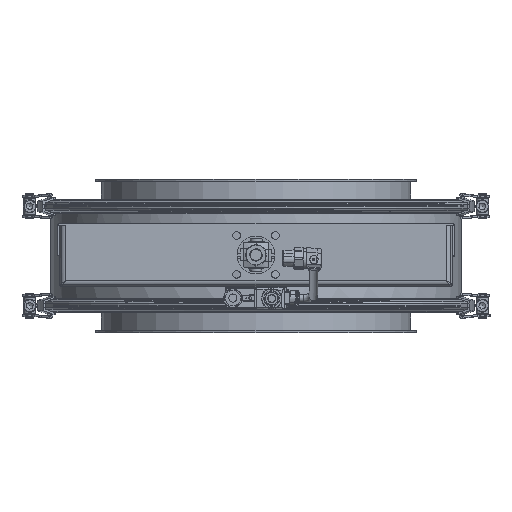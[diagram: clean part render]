
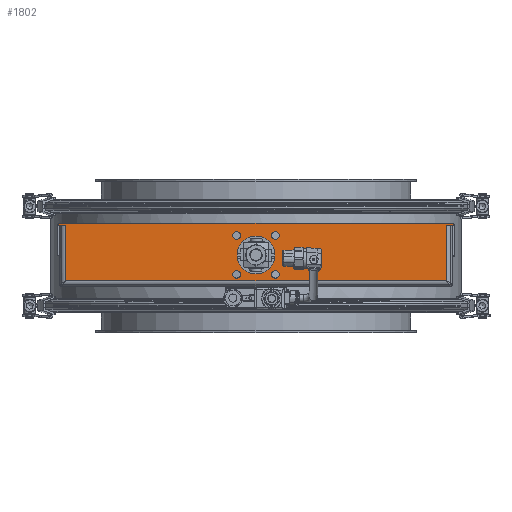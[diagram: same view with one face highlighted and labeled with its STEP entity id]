
A CAD part, left-side view. The second image highlights one B-rep face of the part: STEP entity #1802.
In plain terms, the highlighted planar face has unit normal (-1, 0, 0).
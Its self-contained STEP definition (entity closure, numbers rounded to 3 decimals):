
#859=CARTESIAN_POINT('',(-710.473,-186.,-24.));
#860=VERTEX_POINT('',#859);
#900=CARTESIAN_POINT('',(-710.473,-186.,30.));
#901=VERTEX_POINT('',#900);
#909=CARTESIAN_POINT('',(-710.473,-186.,30.));
#910=DIRECTION('',(0.0,0.0,-1.0));
#911=VECTOR('',#910,54.0);
#912=LINE('',#909,#911);
#913=EDGE_CURVE('',#901,#860,#912,.T.);
#965=CARTESIAN_POINT('',(-710.473,186.,-24.));
#966=VERTEX_POINT('',#965);
#990=CARTESIAN_POINT('',(-710.473,-186.0,-24.));
#991=DIRECTION('',(0.0,1.0,0.0));
#992=VECTOR('',#991,372.);
#993=LINE('',#990,#992);
#994=EDGE_CURVE('',#860,#966,#993,.T.);
#1012=CARTESIAN_POINT('',(-710.473,186.,30.));
#1013=VERTEX_POINT('',#1012);
#1014=CARTESIAN_POINT('',(-710.473,186.,-24.0));
#1015=DIRECTION('',(0.0,0.0,1.0));
#1016=VECTOR('',#1015,54.0);
#1017=LINE('',#1014,#1016);
#1018=EDGE_CURVE('',#966,#1013,#1017,.T.);
#1261=CARTESIAN_POINT('',(-710.473,19.,-14.25));
#1262=VERTEX_POINT('',#1261);
#1263=CARTESIAN_POINT('',(-710.473,19.,-18.0));
#1264=DIRECTION('',(1.0,0.0,0.0));
#1265=DIRECTION('',(0.0,0.0,1.0));
#1266=AXIS2_PLACEMENT_3D('',#1263,#1264,#1265);
#1267=CIRCLE('',#1266,3.75);
#1268=EDGE_CURVE('',#1262,#1262,#1267,.T.);
#1310=CARTESIAN_POINT('',(-710.473,-19.,23.75));
#1311=VERTEX_POINT('',#1310);
#1312=CARTESIAN_POINT('',(-710.473,-19.,20.0));
#1313=DIRECTION('',(1.0,0.0,0.0));
#1314=DIRECTION('',(0.0,0.0,1.0));
#1315=AXIS2_PLACEMENT_3D('',#1312,#1313,#1314);
#1316=CIRCLE('',#1315,3.75);
#1317=EDGE_CURVE('',#1311,#1311,#1316,.T.);
#1359=CARTESIAN_POINT('',(-710.473,-19.,-14.25));
#1360=VERTEX_POINT('',#1359);
#1361=CARTESIAN_POINT('',(-710.473,-19.,-18.0));
#1362=DIRECTION('',(1.0,0.0,0.0));
#1363=DIRECTION('',(0.0,0.0,1.0));
#1364=AXIS2_PLACEMENT_3D('',#1361,#1362,#1363);
#1365=CIRCLE('',#1364,3.75);
#1366=EDGE_CURVE('',#1360,#1360,#1365,.T.);
#1408=CARTESIAN_POINT('',(-710.473,19.,23.75));
#1409=VERTEX_POINT('',#1408);
#1410=CARTESIAN_POINT('',(-710.473,19.,20.0));
#1411=DIRECTION('',(1.0,0.0,0.0));
#1412=DIRECTION('',(0.0,0.0,1.0));
#1413=AXIS2_PLACEMENT_3D('',#1410,#1411,#1412);
#1414=CIRCLE('',#1413,3.75);
#1415=EDGE_CURVE('',#1409,#1409,#1414,.T.);
#1457=CARTESIAN_POINT('',(-710.473,0.,19.5));
#1458=VERTEX_POINT('',#1457);
#1459=CARTESIAN_POINT('',(-710.473,0.,1.));
#1460=DIRECTION('',(1.0,0.0,0.0));
#1461=DIRECTION('',(0.0,0.0,1.0));
#1462=AXIS2_PLACEMENT_3D('',#1459,#1460,#1461);
#1463=CIRCLE('',#1462,18.5);
#1464=EDGE_CURVE('',#1458,#1458,#1463,.T.);
#1505=CARTESIAN_POINT('',(-710.473,194.,30.0));
#1506=VERTEX_POINT('',#1505);
#1507=CARTESIAN_POINT('',(-710.473,194.,30.0));
#1508=DIRECTION('',(0.0,-1.0,0.0));
#1509=VECTOR('',#1508,8.);
#1510=LINE('',#1507,#1509);
#1511=EDGE_CURVE('',#1506,#1013,#1510,.T.);
#1709=CARTESIAN_POINT('',(-710.473,-192.,32.0));
#1710=VERTEX_POINT('',#1709);
#1711=CARTESIAN_POINT('',(-710.473,-194.,30.0));
#1712=VERTEX_POINT('',#1711);
#1713=CARTESIAN_POINT('',(-710.473,-192.,30.0));
#1714=DIRECTION('',(1.0,0.0,0.0));
#1715=DIRECTION('',(0.0,-0.707,0.707));
#1716=AXIS2_PLACEMENT_3D('',#1713,#1714,#1715);
#1717=CIRCLE('',#1716,2.);
#1718=EDGE_CURVE('',#1710,#1712,#1717,.T.);
#1754=CARTESIAN_POINT('',(-710.473,-194.,30.0));
#1755=DIRECTION('',(-1.0,0.0,0.0));
#1756=DIRECTION('',(0.0,0.0,1.0));
#1757=AXIS2_PLACEMENT_3D('',#1754,#1755,#1756);
#1758=PLANE('',#1757);
#1759=CARTESIAN_POINT('',(-710.473,-186.,30.0));
#1760=DIRECTION('',(0.0,-1.0,0.0));
#1761=VECTOR('',#1760,8.);
#1762=LINE('',#1759,#1761);
#1763=EDGE_CURVE('',#901,#1712,#1762,.T.);
#1764=ORIENTED_EDGE('',*,*,#1763,.T.);
#1765=ORIENTED_EDGE('',*,*,#1718,.F.);
#1766=CARTESIAN_POINT('',(-710.473,192.,32.0));
#1767=VERTEX_POINT('',#1766);
#1768=CARTESIAN_POINT('',(-710.473,-192.,32.0));
#1769=DIRECTION('',(0.0,1.0,0.0));
#1770=VECTOR('',#1769,384.);
#1771=LINE('',#1768,#1770);
#1772=EDGE_CURVE('',#1710,#1767,#1771,.T.);
#1773=ORIENTED_EDGE('',*,*,#1772,.T.);
#1774=CARTESIAN_POINT('',(-710.473,192.,30.0));
#1775=DIRECTION('',(1.0,0.0,0.0));
#1776=DIRECTION('',(0.0,0.707,0.707));
#1777=AXIS2_PLACEMENT_3D('',#1774,#1775,#1776);
#1778=CIRCLE('',#1777,2.0);
#1779=EDGE_CURVE('',#1506,#1767,#1778,.T.);
#1780=ORIENTED_EDGE('',*,*,#1779,.F.);
#1781=ORIENTED_EDGE('',*,*,#1511,.T.);
#1782=ORIENTED_EDGE('',*,*,#1018,.F.);
#1783=ORIENTED_EDGE('',*,*,#994,.F.);
#1784=ORIENTED_EDGE('',*,*,#913,.F.);
#1785=EDGE_LOOP('',(#1764,#1765,#1773,#1780,#1781,#1782,#1783,#1784));
#1786=FACE_OUTER_BOUND('',#1785,.T.);
#1787=ORIENTED_EDGE('',*,*,#1268,.T.);
#1788=EDGE_LOOP('',(#1787));
#1789=FACE_BOUND('',#1788,.T.);
#1790=ORIENTED_EDGE('',*,*,#1317,.T.);
#1791=EDGE_LOOP('',(#1790));
#1792=FACE_BOUND('',#1791,.T.);
#1793=ORIENTED_EDGE('',*,*,#1366,.T.);
#1794=EDGE_LOOP('',(#1793));
#1795=FACE_BOUND('',#1794,.T.);
#1796=ORIENTED_EDGE('',*,*,#1415,.T.);
#1797=EDGE_LOOP('',(#1796));
#1798=FACE_BOUND('',#1797,.T.);
#1799=ORIENTED_EDGE('',*,*,#1464,.T.);
#1800=EDGE_LOOP('',(#1799));
#1801=FACE_BOUND('',#1800,.T.);
#1802=ADVANCED_FACE('',(#1786,#1789,#1792,#1795,#1798,#1801),#1758,.T.);
